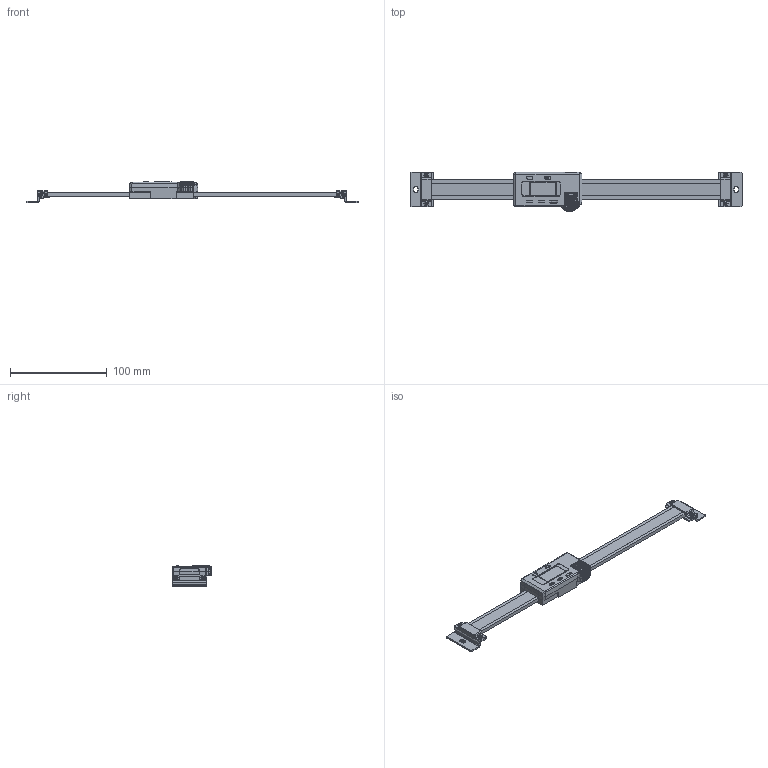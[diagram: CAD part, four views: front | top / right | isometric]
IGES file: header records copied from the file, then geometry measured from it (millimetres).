
Start section: Elysium IGES Interface
Global section: file name: 146HK:\20_商品設計\商品群\測器\41_製品情報\00_製品寸法図\3Dデータ提供\SD全機種_3Dデータ\SD-3Dデータ_20200106_不具合対応_訂正データ\SD-E_pkg\SD-20E.igs; native system: Creo Elements/Direct Modeling 18.1I  13-Aug-2016; preprocessor: Creo Element/Direct IGES_3D V2.2; author: Unknown; organization: Unknown; date: 20200210.112151; units: millimetre
Bounding box: 344 x 41.36 x 22.62 mm (x, y, z)
Volume: 49527.1 mm3; surface area: 37213.4 mm2
Topology: 4 solids, 4 shells, 831 faces, 2172 edges, 1375 vertices
Faces by surface type: bspline 831
